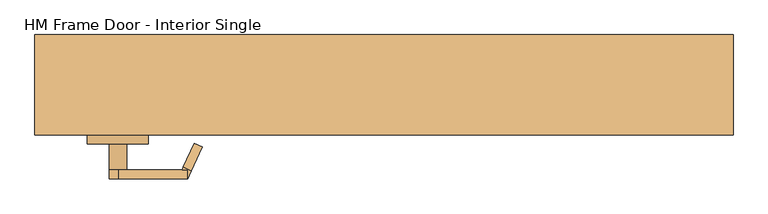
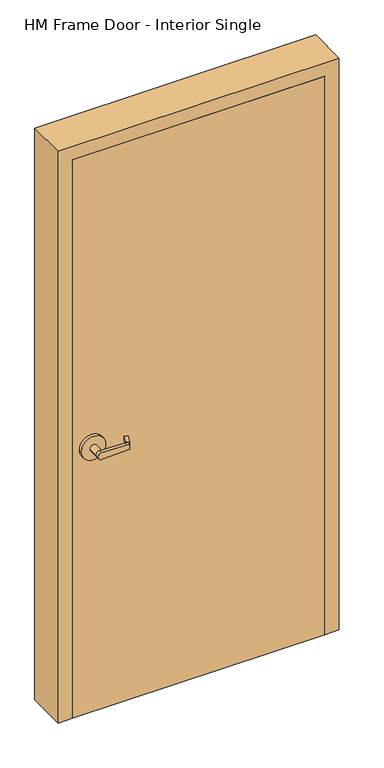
"""IFC4 building model written with IfcOpenShell, lengths in millimetres: door geometry."""

from ifc_helpers import new_model, si_unit, frame, origin, origin_with_axes, place, context, project, spatial, polyline, circle_curve, outline, extrude, faceted_brep, source, transform, mapped, element, save
from ifc_brep_helpers import plane_surface, cylinder_surface, advanced_brep


def hm_frame_door_interior_single_d49bdf56(model_context):
    return source(origin(), model_context, "Body", "SolidModel", [
        advanced_brep(
        [(-291.892857, 18.0476392, 1025.525), (-293.8407923, 22.225, 1025.525), (-293.8407923, 22.225, 1006.475), (-291.892857, 18.0476392, 1006.475), (-275.7911012, -16.4826875, 1009.65), (-275.7911012, -16.4826875, 1022.35), (-285.75, 34.925, 1006.475), (-285.75, 34.925, 1025.525), (-280.3827481, 23.4148911, 1025.525), (-264.2809923, -11.1154356, 1022.35), (-264.2809923, -11.1154356, 1009.65), (-280.3827481, 23.4148911, 1006.475), (-285.75, 22.225, 1025.525), (-285.75, 22.225, 1006.475), (-386.9525418, 34.925, 1003.3062209), (-386.9525418, 34.925, 1028.6937791), (-386.9525418, 22.225, 1028.6937791), (-374.65, 22.225, 1016.0), (-386.9525418, 22.225, 1003.3062209), (-400.05, 22.225, 1016.0), (-374.65, -15.875, 1016.0), (-400.05, -15.875, 1016.0), (-431.8, -15.875, 1016.0), (-342.9, -15.875, 1016.0), (-431.8, -28.575, 1016.0), (-342.9, -28.575, 1016.0)],
        [
            (0, 1),
            (1, 2),
            (2, 3),
            (3, 4),
            (4, 5),
            (5, 0),
            (6, 7),
            (7, 8),
            (8, 9),
            (9, 10),
            (10, 11),
            (11, 6),
            (7, 12),
            (12, 1),
            (0, 8),
            (5, 9),
            (4, 10),
            (3, 11),
            (2, 13),
            (13, 6),
            (6, 14),
            (14, 15, circle_curve(frame((-387.35, 34.925, 1016.0), z_axis=(0.0, 1.0, 0.0), x_axis=(1.0, 0.0, 0.0)), 12.7)),
            (15, 7),
            (12, 16),
            (16, 17, circle_curve(frame((-387.35, 22.225, 1016.0), z_axis=(0.0, 1.0, 0.0), x_axis=(1.0, 0.0, 0.0)), 12.7)),
            (17, 18, circle_curve(frame((-387.35, 22.225, 1016.0), z_axis=(0.0, 1.0, 0.0), x_axis=(1.0, 0.0, 0.0)), 12.7)),
            (18, 13),
            (15, 16),
            (14, 18),
            (18, 19, circle_curve(frame((-387.35, 22.225, 1016.0), z_axis=(0.0, 1.0, 0.0), x_axis=(1.0, 0.0, 0.0)), 12.7)),
            (19, 16, circle_curve(frame((-387.35, 22.225, 1016.0), z_axis=(0.0, 1.0, 0.0), x_axis=(1.0, 0.0, 0.0)), 12.7)),
            (17, 20),
            (20, 21, circle_curve(frame((-387.35, -15.875, 1016.0), z_axis=(0.0, 1.0, 0.0), x_axis=(1.0, 0.0, 0.0)), 12.7)),
            (21, 19),
            (21, 20, circle_curve(frame((-387.35, -15.875, 1016.0), z_axis=(0.0, 1.0, 0.0), x_axis=(1.0, 0.0, 0.0)), 12.7)),
            (22, 23, circle_curve(frame((-387.35, -15.875, 1016.0), z_axis=(0.0, 1.0, 0.0), x_axis=(1.0, 0.0, 0.0)), 44.45)),
            (23, 22, circle_curve(frame((-387.35, -15.875, 1016.0), z_axis=(0.0, 1.0, 0.0), x_axis=(1.0, 0.0, 0.0)), 44.45)),
            (24, 25, circle_curve(frame((-387.35, -28.575, 1016.0), z_axis=(0.0, -1.0, 0.0), x_axis=(1.0, 0.0, 0.0)), 44.45)),
            (25, 24, circle_curve(frame((-387.35, -28.575, 1016.0), z_axis=(0.0, -1.0, 0.0), x_axis=(1.0, 0.0, 0.0)), 44.45)),
            (23, 25),
            (24, 22),
        ],
        [
            plane_surface(frame((-297.2601089, 29.5577481, 1025.525), z_axis=(-0.9063077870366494, -0.4226182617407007, 0.0), x_axis=(0.0, 0.0, 1.0))),
            plane_surface(frame((-285.75, 34.925, 1025.525), z_axis=(0.9063077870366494, 0.4226182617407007, 0.0), x_axis=(0.0, 0.0, -1.0))),
            plane_surface(frame((-297.2601089, 29.5577481, 1025.525), z_axis=(0.0, 0.0, 1.0000000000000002), x_axis=(0.9063077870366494, 0.42261826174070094, 0.0))),
            plane_surface(frame((-291.892857, 18.0476392, 1025.525), z_axis=(0.035096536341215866, -0.07526476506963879, 0.9965457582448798), x_axis=(0.9063077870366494, 0.42261826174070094, 0.0))),
            plane_surface(frame((-275.7911012, -16.4826875, 1022.35), z_axis=(0.42261826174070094, -0.9063077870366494, 0.0), x_axis=(0.9063077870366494, 0.42261826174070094, 0.0))),
            plane_surface(frame((-275.7911012, -16.4826875, 1009.65), z_axis=(0.03509653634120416, -0.07526476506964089, -0.9965457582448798), x_axis=(0.9063077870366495, 0.42261826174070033, 0.0))),
            plane_surface(frame((-291.892857, 18.0476392, 1006.475), z_axis=(0.0, 0.0, -1.0000000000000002), x_axis=(0.9063077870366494, 0.42261826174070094, 0.0))),
            plane_surface(frame((-285.75, 34.925, 1025.525), z_axis=(0.0, 1.0, 0.0), x_axis=(-0.9995101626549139, 0.0, 0.03129592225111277))),
            plane_surface(frame((-285.75, 22.225, 1025.525), z_axis=(0.0, -1.0, 0.0), x_axis=(0.9995101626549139, 0.0, -0.03129592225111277))),
            plane_surface(frame((-285.75, 34.925, 1025.525), z_axis=(0.03129592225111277, 0.0, 0.9995101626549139), x_axis=(0.0, -1.0, 0.0))),
            cylinder_surface(frame((-387.35, 22.225, 1016.0), z_axis=(0.0, 1.0, 0.0), x_axis=(1.0, 0.0, 0.0)), 12.7),
            plane_surface(frame((-386.9525418, 34.925, 1003.3062209), z_axis=(0.03129592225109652, 0.0, -0.9995101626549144), x_axis=(0.0, -1.0, 0.0))),
            cylinder_surface(frame((-387.35, -15.875, 1016.0), z_axis=(0.0, 1.0, 0.0), x_axis=(1.0, 0.0, 0.0)), 12.7),
            plane_surface(frame((-342.9, -15.875, 1016.0), z_axis=(0.0, 1.0, 0.0), x_axis=(0.0, 0.0, 1.0))),
            plane_surface(frame((-342.9, -28.575, 1016.0), z_axis=(0.0, -1.0, 0.0), x_axis=(0.0, 0.0, -1.0))),
            cylinder_surface(frame((-387.35, -28.575, 1016.0), z_axis=(0.0, 1.0, 0.0), x_axis=(1.0, 0.0, 0.0)), 44.45),
        ],
        [
            (0, [[1, 2, 3, 4, 5, 6]]),
            (1, [[7, 8, 9, 10, 11, 12]]),
            (2, [[13, 14, -1, 15, -8]]),
            (3, [[16, -9, -15, -6]]),
            (4, [[17, -10, -16, -5]]),
            (5, [[18, -11, -17, -4]]),
            (6, [[-18, -3, 19, 20, -12]]),
            (7, [[-7, 21, 22, 23]]),
            (8, [[-19, -2, -14, 24, 25, 26, 27]]),
            (9, [[28, -24, -13, -23]]),
            (10, [[29, 30, 31, -28, -22]]),
            (11, [[-20, -27, -29, -21]]),
            (12, [[-30, -26, 32, 33, 34]]),
            (12, [[35, -32, -25, -31, -34]]),
            (13, [[36, 37], [-35, -33]]),
            (14, [[38, 39]]),
            (15, [[40, -38, 41, -37]]),
            (15, [[-41, -39, -40, -36]]),
        ],
    ),
        advanced_brep(
        [(-291.892857, -119.6476392, 1006.475), (-293.8407923, -123.825, 1006.475), (-293.8407923, -123.825, 1025.525), (-291.892857, -119.6476392, 1025.525), (-275.7911012, -85.1173125, 1022.35), (-275.7911012, -85.1173125, 1009.65), (-285.75, -136.525, 1025.525), (-285.75, -136.525, 1006.475), (-280.3827481, -125.0148911, 1006.475), (-264.2809923, -90.4845644, 1009.65), (-264.2809923, -90.4845644, 1022.35), (-280.3827481, -125.0148911, 1025.525), (-285.75, -123.825, 1006.475), (-285.75, -123.825, 1025.525), (-386.9525418, -136.525, 1028.6937791), (-386.9525418, -136.525, 1003.3062209), (-386.9525418, -123.825, 1003.3062209), (-374.65, -123.825, 1016.0), (-386.9525418, -123.825, 1028.6937791), (-400.05, -123.825, 1016.0), (-374.65, -85.725, 1016.0), (-400.05, -85.725, 1016.0), (-431.8, -85.725, 1016.0), (-342.9, -85.725, 1016.0), (-431.8, -73.025, 1016.0), (-342.9, -73.025, 1016.0)],
        [
            (0, 1),
            (1, 2),
            (2, 3),
            (3, 4),
            (4, 5),
            (5, 0),
            (6, 7),
            (7, 8),
            (8, 9),
            (9, 10),
            (10, 11),
            (11, 6),
            (7, 12),
            (12, 1),
            (0, 8),
            (5, 9),
            (4, 10),
            (3, 11),
            (2, 13),
            (13, 6),
            (6, 14),
            (14, 15, circle_curve(frame((-387.35, -136.525, 1016.0), z_axis=(0.0, -1.0, 0.0), x_axis=(1.0, 0.0, 0.0)), 12.7)),
            (15, 7),
            (12, 16),
            (16, 17, circle_curve(frame((-387.35, -123.825, 1016.0), z_axis=(0.0, -1.0, 0.0), x_axis=(1.0, 0.0, 0.0)), 12.7)),
            (17, 18, circle_curve(frame((-387.35, -123.825, 1016.0), z_axis=(0.0, -1.0, 0.0), x_axis=(1.0, 0.0, 0.0)), 12.7)),
            (18, 13),
            (15, 16),
            (14, 18),
            (18, 19, circle_curve(frame((-387.35, -123.825, 1016.0), z_axis=(0.0, -1.0, 0.0), x_axis=(1.0, 0.0, 0.0)), 12.7)),
            (19, 16, circle_curve(frame((-387.35, -123.825, 1016.0), z_axis=(0.0, -1.0, 0.0), x_axis=(1.0, 0.0, 0.0)), 12.7)),
            (17, 20),
            (20, 21, circle_curve(frame((-387.35, -85.725, 1016.0), z_axis=(0.0, -1.0, 0.0), x_axis=(1.0, 0.0, 0.0)), 12.7)),
            (21, 19),
            (21, 20, circle_curve(frame((-387.35, -85.725, 1016.0), z_axis=(0.0, -1.0, 0.0), x_axis=(1.0, 0.0, 0.0)), 12.7)),
            (22, 23, circle_curve(frame((-387.35, -85.725, 1016.0), z_axis=(0.0, -1.0, 0.0), x_axis=(1.0, 0.0, 0.0)), 44.45)),
            (23, 22, circle_curve(frame((-387.35, -85.725, 1016.0), z_axis=(0.0, -1.0, 0.0), x_axis=(1.0, 0.0, 0.0)), 44.45)),
            (24, 25, circle_curve(frame((-387.35, -73.025, 1016.0), z_axis=(0.0, 1.0, 0.0), x_axis=(1.0, 0.0, 0.0)), 44.45)),
            (25, 24, circle_curve(frame((-387.35, -73.025, 1016.0), z_axis=(0.0, 1.0, 0.0), x_axis=(1.0, 0.0, 0.0)), 44.45)),
            (23, 25),
            (24, 22),
        ],
        [
            plane_surface(frame((-297.2601089, -131.1577481, 1006.475), z_axis=(-0.9063077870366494, 0.4226182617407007, 0.0), x_axis=(0.0, 0.0, -1.0))),
            plane_surface(frame((-285.75, -136.525, 1006.475), z_axis=(0.9063077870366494, -0.4226182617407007, 0.0), x_axis=(0.0, 0.0, 1.0))),
            plane_surface(frame((-297.2601089, -131.1577481, 1006.475), z_axis=(0.0, 0.0, -1.0000000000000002), x_axis=(0.9063077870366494, -0.42261826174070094, 0.0))),
            plane_surface(frame((-291.892857, -119.6476392, 1006.475), z_axis=(0.03509653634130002, 0.07526476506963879, -0.9965457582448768), x_axis=(0.9063077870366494, -0.42261826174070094, 0.0))),
            plane_surface(frame((-275.7911012, -85.1173125, 1009.65), z_axis=(0.42261826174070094, 0.9063077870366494, 0.0), x_axis=(0.9063077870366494, -0.42261826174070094, 0.0))),
            plane_surface(frame((-275.7911012, -85.1173125, 1022.35), z_axis=(0.03509653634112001, 0.07526476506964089, 0.9965457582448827), x_axis=(0.9063077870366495, -0.42261826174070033, 0.0))),
            plane_surface(frame((-291.892857, -119.6476392, 1025.525), z_axis=(0.0, 0.0, 1.0000000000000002), x_axis=(0.9063077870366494, -0.42261826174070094, 0.0))),
            plane_surface(frame((-285.75, -136.525, 1006.475), z_axis=(0.0, -1.0, 0.0), x_axis=(-0.9995101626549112, 0.0, -0.03129592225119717))),
            plane_surface(frame((-285.75, -123.825, 1006.475), z_axis=(0.0, 1.0, 0.0), x_axis=(0.9995101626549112, 0.0, 0.03129592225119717))),
            plane_surface(frame((-285.75, -136.525, 1006.475), z_axis=(0.03129592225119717, 0.0, -0.9995101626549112), x_axis=(0.0, 1.0, 0.0))),
            cylinder_surface(frame((-387.35, -123.825, 1016.0), z_axis=(0.0, -1.0, 0.0), x_axis=(1.0, 0.0, 0.0)), 12.7),
            plane_surface(frame((-386.9525418, -136.525, 1028.6937791), z_axis=(0.031295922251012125, 0.0, 0.9995101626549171), x_axis=(0.0, 1.0, 0.0))),
            cylinder_surface(frame((-387.35, -85.725, 1016.0), z_axis=(0.0, -1.0, 0.0), x_axis=(1.0, 0.0, 0.0)), 12.7),
            plane_surface(frame((-342.9, -85.725, 1016.0), z_axis=(0.0, -1.0, 0.0), x_axis=(0.0, 0.0, -1.0))),
            plane_surface(frame((-342.9, -73.025, 1016.0), z_axis=(0.0, 1.0, 0.0), x_axis=(0.0, 0.0, 1.0))),
            cylinder_surface(frame((-387.35, -73.025, 1016.0), z_axis=(0.0, -1.0, 0.0), x_axis=(1.0, 0.0, 0.0)), 44.45),
        ],
        [
            (0, [[1, 2, 3, 4, 5, 6]]),
            (1, [[7, 8, 9, 10, 11, 12]]),
            (2, [[13, 14, -1, 15, -8]]),
            (3, [[16, -9, -15, -6]]),
            (4, [[17, -10, -16, -5]]),
            (5, [[18, -11, -17, -4]]),
            (6, [[-18, -3, 19, 20, -12]]),
            (7, [[-7, 21, 22, 23]]),
            (8, [[-19, -2, -14, 24, 25, 26, 27]]),
            (9, [[28, -24, -13, -23]]),
            (10, [[29, 30, 31, -28, -22]]),
            (11, [[-20, -27, -29, -21]]),
            (12, [[-30, -26, 32, 33, 34]]),
            (12, [[35, -32, -25, -31, -34]]),
            (13, [[36, 37], [-35, -33]]),
            (14, [[38, 39]]),
            (15, [[40, -38, 41, -37]]),
            (15, [[-41, -39, -40, -36]]),
        ],
    ),
        faceted_brep([(508.0, -73.025, 0.0), (457.2, -73.025, 0.0), (457.2, -28.575, 0.0), (441.325, -28.575, 0.0), (441.325, 28.575, 0.0), (457.2, 28.575, 0.0), (457.2, 73.025, 0.0), (508.0, 73.025, 0.0), (508.0, 73.025, 2184.4), (508.0, -73.025, 2184.4), (457.2, 73.025, 2133.6), (-457.2, 73.025, 2133.6), (-457.2, 73.025, 0.0), (-508.0, 73.025, 0.0), (-508.0, 73.025, 2184.4), (457.2, 28.575, 2133.6), (441.325, 28.575, 2117.725), (-441.325, 28.575, 2117.725), (-441.325, 28.575, 0.0), (-457.2, 28.575, 0.0), (-457.2, 28.575, 2133.6), (441.325, -28.575, 2117.725), (457.2, -28.575, 2133.6), (-457.2, -28.575, 2133.6), (-457.2, -28.575, 0.0), (-441.325, -28.575, 0.0), (-441.325, -28.575, 2117.725), (457.2, -73.025, 2133.6), (-508.0, -73.025, 2184.4), (-508.0, -73.025, 0.0), (-457.2, -73.025, 0.0), (-457.2, -73.025, 2133.6)], [[[0, 1, 2, 3, 4, 5, 6, 7]], [[0, 7, 8, 9]], [[6, 10, 11, 12, 13, 14, 8, 7]], [[5, 15, 10, 6]], [[4, 16, 17, 18, 19, 20, 15, 5]], [[3, 21, 16, 4]], [[2, 22, 23, 24, 25, 26, 21, 3]], [[1, 27, 22, 2]], [[0, 9, 28, 29, 30, 31, 27, 1]], [[14, 13, 29, 28]], [[13, 12, 19, 18, 25, 24, 30, 29]], [[20, 19, 12, 11]], [[26, 25, 18, 17]], [[31, 30, 24, 23]], [[8, 14, 28, 9]], [[15, 20, 11, 10]], [[21, 26, 17, 16]], [[27, 31, 23, 22]]]),
        extrude(outline(polyline([(-457.2, -73.025), (-457.2, -28.575), (457.2, -28.575), (457.2, -73.025), (-457.2, -73.025)])), origin_with_axes(), (0.0, 0.0, 1.0), 2133.6),
    ])


if __name__ == "__main__":
    model = new_model("IFC4")
    model_context = context("Model", 3, world=origin())
    ifc_project = project(units=[si_unit("LENGTHUNIT", "METRE", prefix="MILLI")], contexts=[model_context])
    site = spatial("IfcSite", under=ifc_project)
    building = spatial("IfcBuilding", under=site)
    placement = place(None, origin())
    hm_frame_door_interior_single_shape = hm_frame_door_interior_single_d49bdf56(model_context)
    element("IfcDoor", 1, ObjectType="HM Frame Door - Interior Single : 36\" x 84\" x 5.75\" WD Door", at=placement, inside=building, context=model_context, shape_type="MappedRepresentation", body=[
        mapped(hm_frame_door_interior_single_shape, transform((0.0, 0.0, 0.0), x_axis=(1.0, 0.0, 0.0), y_axis=(0.0, 1.0, 0.0), z_axis=(0.0, 0.0, 1.0))),
    ])
    save(model, "model.ifc")
